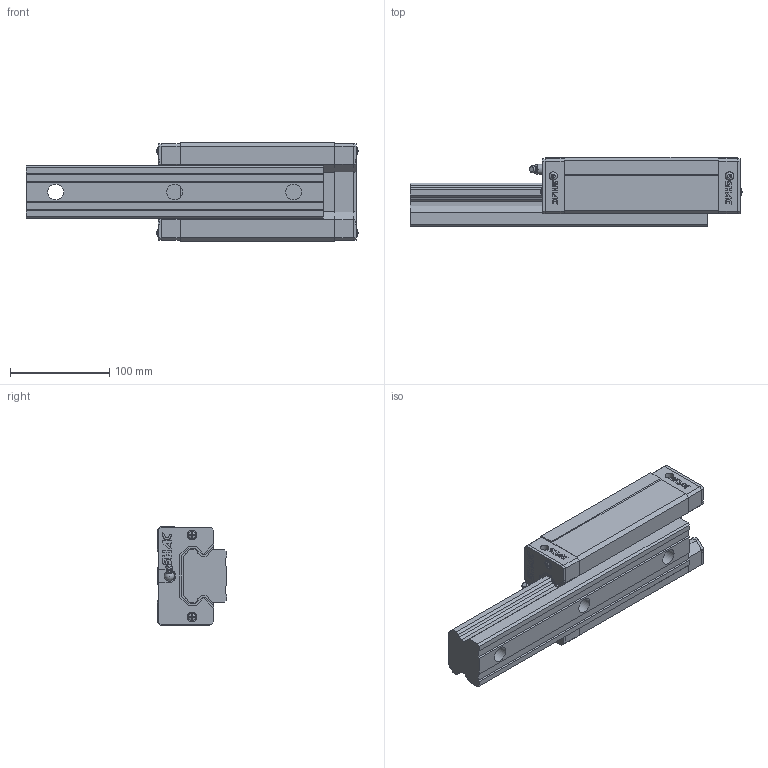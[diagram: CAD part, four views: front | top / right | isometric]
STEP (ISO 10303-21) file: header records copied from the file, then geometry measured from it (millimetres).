
FILE_DESCRIPTION( ( 'STEP AP214' ), '1' );
FILE_NAME( 'F:/品牌/SHAC 台湾鼎翰传动科技有限公司/3D滑块/GHL55HA1R300Z0C-30_30_1_1_.stp', '2025-04-21T22:46:07', ( 'License CC BY-ND 4.0' ), ( 'CADENAS' ), ' ', 'PARTsolutions', ' ' );
FILE_SCHEMA( ( 'AUTOMOTIVE_DESIGN { 1 0 10303 214 1 1 1 1 }' ) );
Length unit declared in the file: millimetre
Products named in the file (8): GHL55HA1R300Z0C-30/30(1_1); _GHR55R300C+RC-30/30(1)_RAIL; _GHL55HA_SLIDER; _GHL55HA_C; _GHL55HA_P; _GH55_SCREW; _GH55_BOLT; _GH55-_G
Assembly tree (12 placements, depth 2):
  GHL55HA1R300Z0C-30/30(1_1)
    _GHR55R300C+RC-30/30(1)_RAIL
    _GHL55HA_SLIDER
    _GHL55HA_C  x2
    _GHL55HA_P  x2
    _GH55_SCREW  x4
    _GH55_BOLT
    _GH55-_G
Bounding box: 334.86 x 70 x 100 mm (x, y, z)
Volume: 1410299.8 mm3; surface area: 190469.9 mm2
Topology: 12 solids, 12 shells, 781 faces, 2075 edges, 1369 vertices
Faces by surface type: plane 634, cylinder 106, cone 26, torus 9, sphere 5, bspline 1
Full cylindrical faces by diameter (mm): 1 x4, 4.5 x1, 4.7 x4, 7.4 x2, 7.76 x4, 8.4 x4, 9.7 x4, 10 x2, 10.106 x4, 10.3 x2, 16 x3, 23 x3
Entity records: 18368 total; most frequent: CARTESIAN_POINT 2706, ORIENTED_EDGE 2402, DIRECTION 2331, EDGE_CURVE 1201, LINE 987, VECTOR 987, VERTEX_POINT 819, AXIS2_PLACEMENT_3D 672
